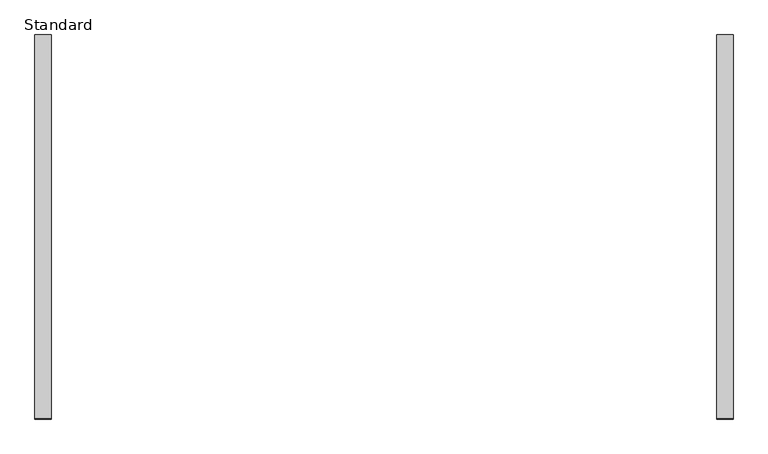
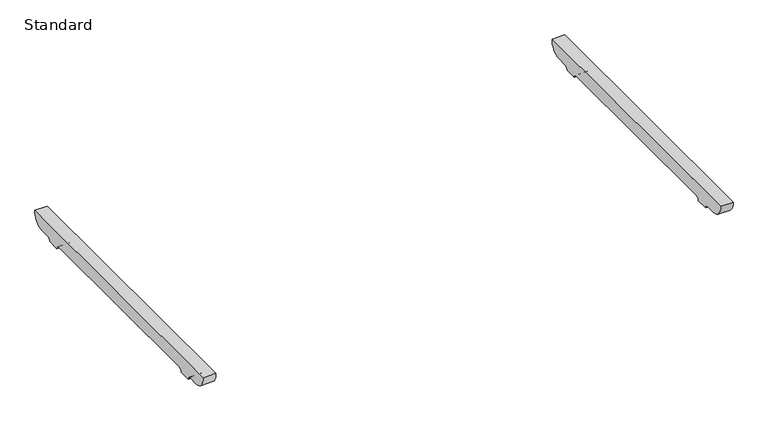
"""IFC4 building model written with IfcOpenShell, lengths in millimetres: furniture geometry, BDG_BossDesign_Tbls_AgentTables4Legs_Nested : Standard."""

from ifc_helpers import new_model, si_unit, point, frame, frame_2d, origin, place, context, project, spatial, polyline, circle_curve, trimmed, segment, composite_curve, outline, extrude, source, transform, mapped, element, save


def standard_6c16a902(model_context):
    return source(origin(), model_context, "Body", "SweptSolid", [
        extrude(outline(composite_curve([segment(polyline([(480.5450184, 672.0), (442.7000122, 672.0)]), True, "CONTINUOUS"), segment(trimmed(circle_curve(frame_2d((442.7000122, 660.0)), 12.0), [point((442.7000122, 672.0))], [point((430.7000122, 660.0))], True, "CARTESIAN"), True, "CONTINUOUS"), segment(polyline([(430.7000122, 660.0), (385.7000122, 660.0)]), True, "CONTINUOUS"), segment(trimmed(circle_curve(frame_2d((373.7000122, 660.0)), 12.0), [point((385.7000122, 660.0))], [point((373.7000122, 672.0))], True, "CARTESIAN"), True, "CONTINUOUS"), segment(polyline([(373.7000122, 672.0), (-373.7000122, 672.0)]), True, "CONTINUOUS"), segment(trimmed(circle_curve(frame_2d((-373.7000122, 660.0)), 12.0), [point((-373.7000122, 672.0))], [point((-385.7000122, 660.0))], True, "CARTESIAN"), True, "CONTINUOUS"), segment(polyline([(-385.7000122, 660.0), (-430.7000122, 660.0)]), True, "CONTINUOUS"), segment(trimmed(circle_curve(frame_2d((-442.7000122, 660.0)), 12.0), [point((-430.7000122, 660.0))], [point((-442.7000122, 672.0))], True, "CARTESIAN"), True, "CONTINUOUS"), segment(polyline([(-442.7000122, 672.0), (-480.5450184, 672.0)]), True, "CONTINUOUS"), segment(trimmed(circle_curve(frame_2d((-478.2220439, 716.5514119)), 44.6119324), [point((-480.5450184, 672.0))], [point((-522.5, 722.0))], False, "CARTESIAN"), True, "CONTINUOUS"), segment(polyline([(-522.5, 722.0), (522.5, 722.0)]), True, "CONTINUOUS"), segment(trimmed(circle_curve(frame_2d((478.2220439, 716.5514119)), 44.6119324), [point((522.5, 722.0))], [point((480.5450184, 672.0))], False, "CARTESIAN"), True, "CONTINUOUS")], self_intersect=False)), frame((905.0, 0.0, 0.0), z_axis=(1.0, 0.0, 0.0), x_axis=(0.0, 1.0, 0.0)), (0.0, 0.0, 1.0), 45.0),
        extrude(outline(composite_curve([segment(polyline([(480.5450184, 672.0), (442.7000122, 672.0)]), True, "CONTINUOUS"), segment(trimmed(circle_curve(frame_2d((442.7000122, 660.0)), 12.0), [point((442.7000122, 672.0))], [point((430.7000122, 660.0))], True, "CARTESIAN"), True, "CONTINUOUS"), segment(polyline([(430.7000122, 660.0), (385.7000122, 660.0)]), True, "CONTINUOUS"), segment(trimmed(circle_curve(frame_2d((373.7000122, 660.0)), 12.0), [point((385.7000122, 660.0))], [point((373.7000122, 672.0))], True, "CARTESIAN"), True, "CONTINUOUS"), segment(polyline([(373.7000122, 672.0), (-373.7000122, 672.0)]), True, "CONTINUOUS"), segment(trimmed(circle_curve(frame_2d((-373.7000122, 660.0)), 12.0), [point((-373.7000122, 672.0))], [point((-385.7000122, 660.0))], True, "CARTESIAN"), True, "CONTINUOUS"), segment(polyline([(-385.7000122, 660.0), (-430.7000122, 660.0)]), True, "CONTINUOUS"), segment(trimmed(circle_curve(frame_2d((-442.7000122, 660.0)), 12.0), [point((-430.7000122, 660.0))], [point((-442.7000122, 672.0))], True, "CARTESIAN"), True, "CONTINUOUS"), segment(polyline([(-442.7000122, 672.0), (-480.5450184, 672.0)]), True, "CONTINUOUS"), segment(trimmed(circle_curve(frame_2d((-478.2220439, 716.5514119)), 44.6119324), [point((-480.5450184, 672.0))], [point((-522.5, 722.0))], False, "CARTESIAN"), True, "CONTINUOUS"), segment(polyline([(-522.5, 722.0), (522.5, 722.0)]), True, "CONTINUOUS"), segment(trimmed(circle_curve(frame_2d((478.2220439, 716.5514119)), 44.6119324), [point((522.5, 722.0))], [point((480.5450184, 672.0))], False, "CARTESIAN"), True, "CONTINUOUS")], self_intersect=False)), frame((-950.0, 0.0, 0.0), z_axis=(1.0, 0.0, 0.0), x_axis=(0.0, 1.0, 0.0)), (0.0, 0.0, 1.0), 45.0),
    ])


if __name__ == "__main__":
    model = new_model("IFC4")
    model_context = context("Model", 3, world=origin())
    ifc_project = project(units=[si_unit("LENGTHUNIT", "METRE", prefix="MILLI")], contexts=[model_context])
    site = spatial("IfcSite", under=ifc_project)
    building = spatial("IfcBuilding", under=site)
    placement = place(None, origin())
    standard_shape = standard_6c16a902(model_context)
    element("IfcFurniture", 1, ObjectType="BDG_BossDesign_Tbls_AgentTables4Legs_Nested : Standard", at=placement, inside=building, context=model_context, shape_type="MappedRepresentation", body=[
        mapped(standard_shape, transform((0.0, 0.0, 0.0), x_axis=(1.0, 0.0, 0.0), y_axis=(0.0, 1.0, 0.0), z_axis=(0.0, 0.0, 1.0))),
    ])
    save(model, "model.ifc")
